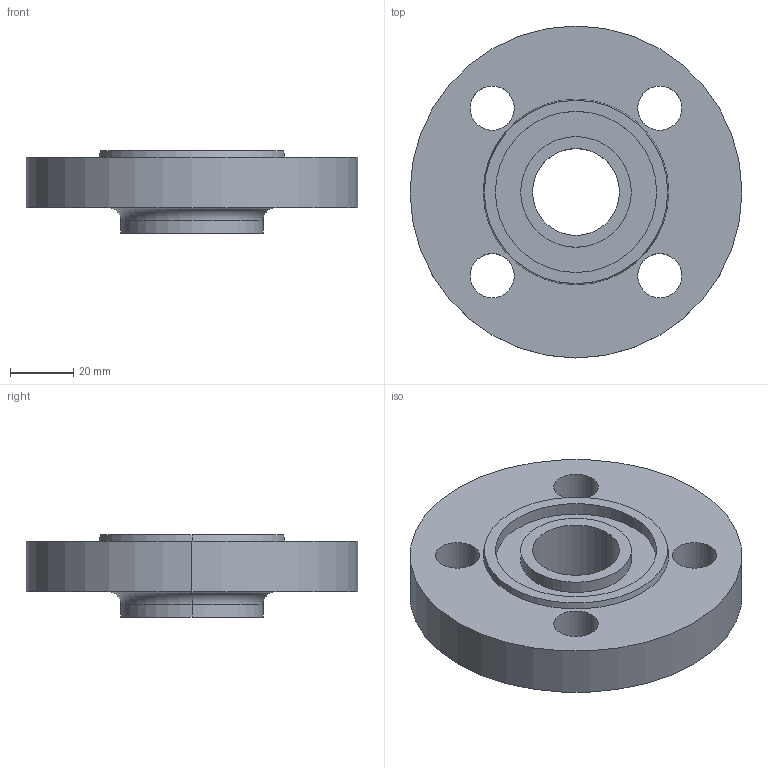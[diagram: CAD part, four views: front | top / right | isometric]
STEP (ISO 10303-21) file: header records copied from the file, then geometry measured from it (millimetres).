
FILE_DESCRIPTION (( 'STEP AP214' ), '1' );
FILE_NAME ('PN40 DN20 Type 12 - Type D Face.STEP', '2018-12-29T18:16:48', ( '' ), ( '' ), 'SwSTEP 2.0', 'SolidWorks 2019', '' );
FILE_SCHEMA (( 'AUTOMOTIVE_DESIGN' ));
Length unit declared in the file: millimetre
Products named in the file (1): PN40 DN20 Type 12 - Type D Face
Bounding box: 105 x 105 x 26 mm (x, y, z)
Volume: 127503.3 mm3; surface area: 27521.3 mm2
Topology: 1 solids, 1 shells, 28 faces, 64 edges, 42 vertices
Faces by surface type: cylinder 18, plane 6, torus 2, cone 2
Entity records: 870 total; most frequent: DIRECTION 166, CARTESIAN_POINT 135, ORIENTED_EDGE 128, AXIS2_PLACEMENT_3D 73, EDGE_CURVE 64, CIRCLE 44, EDGE_LOOP 42, VERTEX_POINT 42
